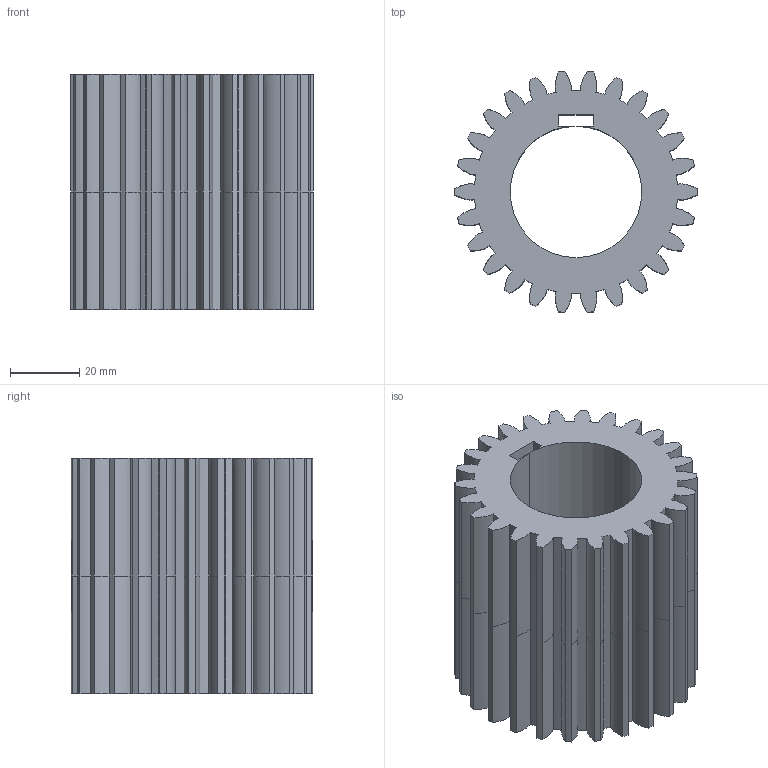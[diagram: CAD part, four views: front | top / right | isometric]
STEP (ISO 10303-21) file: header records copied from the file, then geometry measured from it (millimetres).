
FILE_DESCRIPTION(('Open CASCADE Model'),'2;1');
FILE_NAME('Open CASCADE Shape Model','2026-09-15T22:57:55',('Author'),( 'Open CASCADE'),'Open CASCADE STEP processor 7.9','build123d', 'Unknown');
FILE_SCHEMA(('AUTOMOTIVE_DESIGN { 1 0 10303 214 1 1 1 1 }'));
Length unit declared in the file: millimetre
Products named in the file (1): COMPOUND
Bounding box: 70 x 69.68 x 68 mm (x, y, z)
Volume: 142536.7 mm3; surface area: 43088.1 mm2
Topology: 1 solids, 1 shells, 165 faces, 488 edges, 324 vertices
Faces by surface type: extrusion 104, cylinder 54, plane 7
Entity records: 17150 total; most frequent: CARTESIAN_POINT 7802, DIRECTION 1518, VECTOR 1070, ORIENTED_EDGE 978, PCURVE 976, DEFINITIONAL_REPRESENTATION 976, LINE 966, EDGE_CURVE 488
